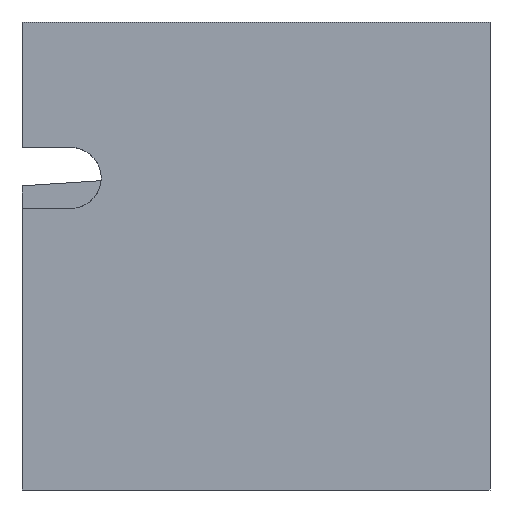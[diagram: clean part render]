
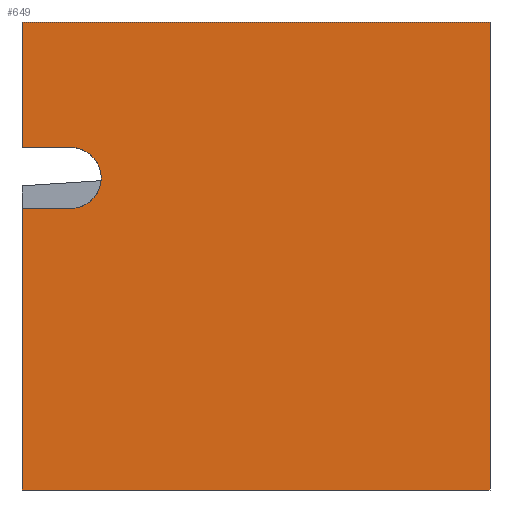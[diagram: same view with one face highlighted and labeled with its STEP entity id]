
A CAD part, front view. The second image highlights one B-rep face of the part: STEP entity #649.
In plain terms, the highlighted planar face has unit normal (0, -1, 0).
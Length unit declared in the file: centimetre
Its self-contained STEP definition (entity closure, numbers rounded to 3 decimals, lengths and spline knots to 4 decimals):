
#4 = ORIENTED_EDGE ( 'NONE', *, *, #670, .F. ) ;
#9 = DIRECTION ( 'NONE',  ( 0., 0., -1. ) ) ;
#19 = EDGE_CURVE ( 'NONE', #537, #109, #598, .T. ) ;
#23 = VECTOR ( 'NONE', #181, 100. ) ;
#27 = LINE ( 'NONE', #434, #674 ) ;
#38 = VERTEX_POINT ( 'NONE', #179 ) ;
#65 = CARTESIAN_POINT ( 'NONE',  ( 104.1569, 0., 666.705 ) ) ;
#74 = CARTESIAN_POINT ( 'NONE',  ( 1000., 0., 1000. ) ) ;
#109 = VERTEX_POINT ( 'NONE', #664 ) ;
#121 = VERTEX_POINT ( 'NONE', #74 ) ;
#127 = DIRECTION ( 'NONE',  ( 1., 0., 0. ) ) ;
#168 = PLANE ( 'NONE',  #316 ) ;
#174 = FACE_OUTER_BOUND ( 'NONE', #628, .T. ) ;
#179 = CARTESIAN_POINT ( 'NONE',  ( 1000., 0., 0. ) ) ;
#181 = DIRECTION ( 'NONE',  ( 1., 0., 0. ) ) ;
#200 = ORIENTED_EDGE ( 'NONE', *, *, #671, .F. ) ;
#223 = EDGE_CURVE ( 'NONE', #537, #658, #672, .T. ) ;
#224 = LINE ( 'NONE', #229, #546 ) ;
#229 = CARTESIAN_POINT ( 'NONE',  ( 0., 0., 0. ) ) ;
#234 = LINE ( 'NONE', #407, #650 ) ;
#235 = ORIENTED_EDGE ( 'NONE', *, *, #386, .T. ) ;
#243 = DIRECTION ( 'NONE',  ( 1., 0., 0. ) ) ;
#278 = AXIS2_PLACEMENT_3D ( 'NONE', #65, #420, #9 ) ;
#288 = CARTESIAN_POINT ( 'NONE',  ( 0., 0., 1000. ) ) ;
#291 = LINE ( 'NONE', #490, #306 ) ;
#306 = VECTOR ( 'NONE', #484, 100. ) ;
#316 = AXIS2_PLACEMENT_3D ( 'NONE', #509, #397, #647 ) ;
#332 = ORIENTED_EDGE ( 'NONE', *, *, #729, .F. ) ;
#342 = VERTEX_POINT ( 'NONE', #485 ) ;
#346 = DIRECTION ( 'NONE',  ( 0., 0., -1. ) ) ;
#356 = CARTESIAN_POINT ( 'NONE',  ( 0., 0., 601.6247 ) ) ;
#384 = ORIENTED_EDGE ( 'NONE', *, *, #223, .F. ) ;
#386 = EDGE_CURVE ( 'NONE', #109, #38, #224, .T. ) ;
#397 = DIRECTION ( 'NONE',  ( 0., 1., 0. ) ) ;
#407 = CARTESIAN_POINT ( 'NONE',  ( 1000., 0., 1000. ) ) ;
#420 = DIRECTION ( 'NONE',  ( 0., -1., 0. ) ) ;
#434 = CARTESIAN_POINT ( 'NONE',  ( 0., 0., 1000. ) ) ;
#460 = VERTEX_POINT ( 'NONE', #629 ) ;
#466 = EDGE_CURVE ( 'NONE', #460, #342, #27, .T. ) ;
#484 = DIRECTION ( 'NONE',  ( -1., 0., 0. ) ) ;
#485 = CARTESIAN_POINT ( 'NONE',  ( 0., 0., 731.7853 ) ) ;
#490 = CARTESIAN_POINT ( 'NONE',  ( 104.1569, 0., 731.7853 ) ) ;
#509 = CARTESIAN_POINT ( 'NONE',  ( 0., 0., 1000. ) ) ;
#520 = VERTEX_POINT ( 'NONE', #693 ) ;
#526 = ORIENTED_EDGE ( 'NONE', *, *, #19, .T. ) ;
#537 = VERTEX_POINT ( 'NONE', #561 ) ;
#546 = VECTOR ( 'NONE', #243, 100. ) ;
#561 = CARTESIAN_POINT ( 'NONE',  ( 0., 0., 601.6247 ) ) ;
#567 = ORIENTED_EDGE ( 'NONE', *, *, #741, .F. ) ;
#598 = LINE ( 'NONE', #288, #635 ) ;
#625 = DIRECTION ( 'NONE',  ( 0., 0., -1. ) ) ;
#628 = EDGE_LOOP ( 'NONE', ( #681, #200, #332, #384, #526, #235, #4, #567 ) ) ;
#629 = CARTESIAN_POINT ( 'NONE',  ( 0., 0., 1000. ) ) ;
#635 = VECTOR ( 'NONE', #346, 100. ) ;
#647 = DIRECTION ( 'NONE',  ( 0., 0., 1. ) ) ;
#649 = ADVANCED_FACE ( 'NONE', ( #174 ), #168, .F. ) ;
#650 = VECTOR ( 'NONE', #655, 100. ) ;
#651 = CARTESIAN_POINT ( 'NONE',  ( 104.1569, 0., 601.6247 ) ) ;
#655 = DIRECTION ( 'NONE',  ( 0., 0., -1. ) ) ;
#658 = VERTEX_POINT ( 'NONE', #651 ) ;
#664 = CARTESIAN_POINT ( 'NONE',  ( 0., 0., 0. ) ) ;
#669 = CARTESIAN_POINT ( 'NONE',  ( 0., 0., 1000. ) ) ;
#670 = EDGE_CURVE ( 'NONE', #121, #38, #234, .T. ) ;
#671 = EDGE_CURVE ( 'NONE', #520, #342, #291, .T. ) ;
#672 = LINE ( 'NONE', #356, #23 ) ;
#673 = LINE ( 'NONE', #669, #721 ) ;
#674 = VECTOR ( 'NONE', #625, 100. ) ;
#681 = ORIENTED_EDGE ( 'NONE', *, *, #466, .T. ) ;
#693 = CARTESIAN_POINT ( 'NONE',  ( 104.1569, 0., 731.7853 ) ) ;
#721 = VECTOR ( 'NONE', #127, 100. ) ;
#729 = EDGE_CURVE ( 'NONE', #658, #520, #749, .T. ) ;
#741 = EDGE_CURVE ( 'NONE', #460, #121, #673, .T. ) ;
#749 = CIRCLE ( 'NONE', #278, 65.0803 ) ;
